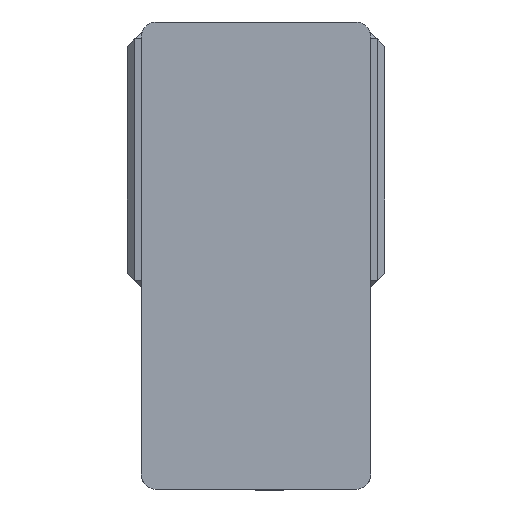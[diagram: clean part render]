
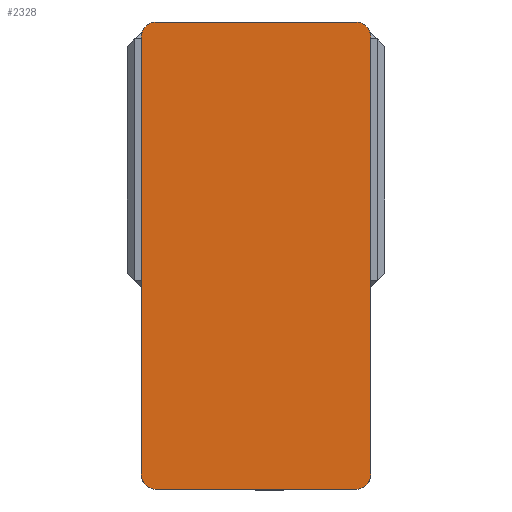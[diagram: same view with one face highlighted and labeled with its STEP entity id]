
A CAD part, left-side view. The second image highlights one B-rep face of the part: STEP entity #2328.
In plain terms, the highlighted planar face has unit normal (-1, 0, 0) as drawn and (0, 0, 1) by its records, which use the part's own axes.
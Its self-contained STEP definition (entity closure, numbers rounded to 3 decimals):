
#74 = EDGE_CURVE ( 'NONE', #4418, #22637, #6166, .T. ) ;
#192 = ORIENTED_EDGE ( 'NONE', *, *, #13907, .T. ) ;
#364 = CARTESIAN_POINT ( 'NONE',  ( -65., 152.5, 105. ) ) ;
#373 = AXIS2_PLACEMENT_3D ( 'NONE', #2448, #14778, #4201 ) ;
#425 = CARTESIAN_POINT ( 'NONE',  ( -65., -152.5, 105. ) ) ;
#840 = VECTOR ( 'NONE', #19963, 1000. ) ;
#1368 = ORIENTED_EDGE ( 'NONE', *, *, #6411, .T. ) ;
#1470 = VECTOR ( 'NONE', #15756, 1000. ) ;
#1687 = LINE ( 'NONE', #8358, #5821 ) ;
#1719 = CARTESIAN_POINT ( 'NONE',  ( -75., -142.5, 105. ) ) ;
#2269 = CARTESIAN_POINT ( 'NONE',  ( 65., 152.5, 105. ) ) ;
#2328 = ADVANCED_FACE ( 'NONE', ( #17282 ), #12907, .T. ) ;
#2448 = CARTESIAN_POINT ( 'NONE',  ( 65., 142.5, 105. ) ) ;
#2722 = CIRCLE ( 'NONE', #12196, 10. ) ;
#2737 = AXIS2_PLACEMENT_3D ( 'NONE', #18454, #7912, #20248 ) ;
#3468 = DIRECTION ( 'NONE',  ( -1., 0., 0. ) ) ;
#3544 = CARTESIAN_POINT ( 'NONE',  ( -75., 142.5, 105. ) ) ;
#4113 = DIRECTION ( 'NONE',  ( 0., 0., 1. ) ) ;
#4201 = DIRECTION ( 'NONE',  ( 1., 0., 0. ) ) ;
#4418 = VERTEX_POINT ( 'NONE', #9246 ) ;
#5821 = VECTOR ( 'NONE', #20680, 1000. ) ;
#6166 = LINE ( 'NONE', #11220, #1470 ) ;
#6411 = EDGE_CURVE ( 'NONE', #16748, #11875, #20264, .T. ) ;
#6418 = ORIENTED_EDGE ( 'NONE', *, *, #14328, .T. ) ;
#6665 = LINE ( 'NONE', #9426, #840 ) ;
#7615 = DIRECTION ( 'NONE',  ( 0., 0., 1. ) ) ;
#7912 = DIRECTION ( 'NONE',  ( 0., 0., 1. ) ) ;
#8163 = VERTEX_POINT ( 'NONE', #425 ) ;
#8358 = CARTESIAN_POINT ( 'NONE',  ( -75., 152.5, 105. ) ) ;
#8428 = EDGE_LOOP ( 'NONE', ( #6418, #9065, #18779, #15191, #1368, #18847, #192, #14132 ) ) ;
#9065 = ORIENTED_EDGE ( 'NONE', *, *, #15137, .T. ) ;
#9246 = CARTESIAN_POINT ( 'NONE',  ( 75., -142.5, 105. ) ) ;
#9426 = CARTESIAN_POINT ( 'NONE',  ( -75., -152.5, 105. ) ) ;
#10001 = CARTESIAN_POINT ( 'NONE',  ( -65., -142.5, 105. ) ) ;
#10770 = VERTEX_POINT ( 'NONE', #3544 ) ;
#11147 = CARTESIAN_POINT ( 'NONE',  ( 0., 0., 105. ) ) ;
#11220 = CARTESIAN_POINT ( 'NONE',  ( 75., 152.5, 105. ) ) ;
#11769 = DIRECTION ( 'NONE',  ( 1., 0., 0. ) ) ;
#11875 = VERTEX_POINT ( 'NONE', #364 ) ;
#12196 = AXIS2_PLACEMENT_3D ( 'NONE', #10001, #22343, #11769 ) ;
#12907 = PLANE ( 'NONE',  #13730 ) ;
#13730 = AXIS2_PLACEMENT_3D ( 'NONE', #11147, #4113, #16462 ) ;
#13755 = CIRCLE ( 'NONE', #373, 10. ) ;
#13907 = EDGE_CURVE ( 'NONE', #10770, #22248, #1687, .T. ) ;
#14132 = ORIENTED_EDGE ( 'NONE', *, *, #15412, .T. ) ;
#14328 = EDGE_CURVE ( 'NONE', #8163, #15816, #6665, .T. ) ;
#14778 = DIRECTION ( 'NONE',  ( 0., 0., 1. ) ) ;
#14882 = CIRCLE ( 'NONE', #20913, 10. ) ;
#15019 = CARTESIAN_POINT ( 'NONE',  ( 75., 142.5, 105. ) ) ;
#15137 = EDGE_CURVE ( 'NONE', #15816, #4418, #14882, .T. ) ;
#15183 = EDGE_CURVE ( 'NONE', #22637, #16748, #13755, .T. ) ;
#15191 = ORIENTED_EDGE ( 'NONE', *, *, #15183, .T. ) ;
#15242 = EDGE_CURVE ( 'NONE', #11875, #10770, #17893, .T. ) ;
#15412 = EDGE_CURVE ( 'NONE', #22248, #8163, #2722, .T. ) ;
#15756 = DIRECTION ( 'NONE',  ( 0., 1., 0. ) ) ;
#15816 = VERTEX_POINT ( 'NONE', #21607 ) ;
#16462 = DIRECTION ( 'NONE',  ( 1., 0., 0. ) ) ;
#16748 = VERTEX_POINT ( 'NONE', #2269 ) ;
#17282 = FACE_OUTER_BOUND ( 'NONE', #8428, .T. ) ;
#17893 = CIRCLE ( 'NONE', #2737, 10. ) ;
#18148 = CARTESIAN_POINT ( 'NONE',  ( 65., -142.5, 105. ) ) ;
#18454 = CARTESIAN_POINT ( 'NONE',  ( -65., 142.5, 105. ) ) ;
#18779 = ORIENTED_EDGE ( 'NONE', *, *, #74, .T. ) ;
#18847 = ORIENTED_EDGE ( 'NONE', *, *, #15242, .T. ) ;
#19265 = CARTESIAN_POINT ( 'NONE',  ( -75., 152.5, 105. ) ) ;
#19937 = DIRECTION ( 'NONE',  ( 1., 0., 0. ) ) ;
#19963 = DIRECTION ( 'NONE',  ( 1., 0., 0. ) ) ;
#20248 = DIRECTION ( 'NONE',  ( 1., 0., 0. ) ) ;
#20264 = LINE ( 'NONE', #19265, #22761 ) ;
#20680 = DIRECTION ( 'NONE',  ( 0., -1., 0. ) ) ;
#20913 = AXIS2_PLACEMENT_3D ( 'NONE', #18148, #7615, #19937 ) ;
#21607 = CARTESIAN_POINT ( 'NONE',  ( 65., -152.5, 105. ) ) ;
#22248 = VERTEX_POINT ( 'NONE', #1719 ) ;
#22343 = DIRECTION ( 'NONE',  ( 0., 0., 1. ) ) ;
#22637 = VERTEX_POINT ( 'NONE', #15019 ) ;
#22761 = VECTOR ( 'NONE', #3468, 1000. ) ;
